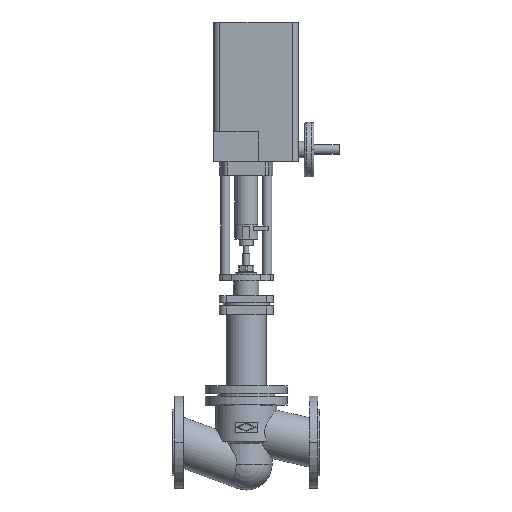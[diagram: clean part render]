
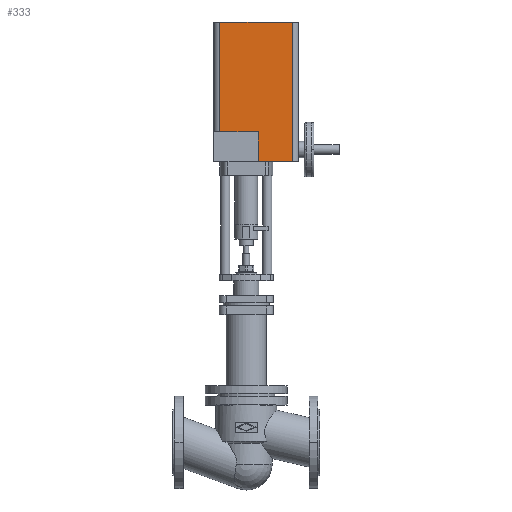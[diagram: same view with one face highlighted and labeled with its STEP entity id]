
A CAD part, top view. The second image highlights one B-rep face of the part: STEP entity #333.
In plain terms, the highlighted planar face has unit normal (0, 0, 1).
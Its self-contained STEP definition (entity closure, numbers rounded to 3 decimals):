
#333 = ADVANCED_FACE( '', ( #825 ), #826, .T. );
#825 = FACE_OUTER_BOUND( '', #1326, .T. );
#826 = PLANE( '', #1327 );
#1326 = EDGE_LOOP( '', ( #3011, #3012, #3013, #3014, #3015, #3016 ) );
#1327 = AXIS2_PLACEMENT_3D( '', #3017, #3018, #3019 );
#3011 = ORIENTED_EDGE( '', *, *, #3603, .T. );
#3012 = ORIENTED_EDGE( '', *, *, #3608, .T. );
#3013 = ORIENTED_EDGE( '', *, *, #3616, .T. );
#3014 = ORIENTED_EDGE( '', *, *, #3617, .T. );
#3015 = ORIENTED_EDGE( '', *, *, #3618, .T. );
#3016 = ORIENTED_EDGE( '', *, *, #3614, .F. );
#3017 = CARTESIAN_POINT( '', ( 285.5, 670.2, 102.5 ) );
#3018 = DIRECTION( '', ( 0., 0., 1. ) );
#3019 = DIRECTION( '', ( 1., 0., 0. ) );
#3603 = EDGE_CURVE( '', #4494, #4492, #4495, .T. );
#3608 = EDGE_CURVE( '', #4492, #4502, #4503, .T. );
#3614 = EDGE_CURVE( '', #4494, #4512, #4513, .T. );
#3616 = EDGE_CURVE( '', #4502, #4515, #4516, .T. );
#3617 = EDGE_CURVE( '', #4515, #4517, #4518, .T. );
#3618 = EDGE_CURVE( '', #4517, #4512, #4519, .T. );
#4492 = VERTEX_POINT( '', #6192 );
#4494 = VERTEX_POINT( '', #6195 );
#4495 = LINE( '', #6196, #6197 );
#4502 = VERTEX_POINT( '', #6207 );
#4503 = LINE( '', #6208, #6209 );
#4512 = VERTEX_POINT( '', #6223 );
#4513 = LINE( '', #6224, #6225 );
#4515 = VERTEX_POINT( '', #6227 );
#4516 = LINE( '', #6228, #6229 );
#4517 = VERTEX_POINT( '', #6230 );
#4518 = LINE( '', #6231, #6232 );
#4519 = LINE( '', #6233, #6234 );
#6192 = CARTESIAN_POINT( '', ( 204., 741.7, 102.5 ) );
#6195 = CARTESIAN_POINT( '', ( 111.5, 741.7, 102.5 ) );
#6196 = CARTESIAN_POINT( '', ( 230.25, 741.7, 102.5 ) );
#6197 = VECTOR( '', #7272, 1. );
#6207 = CARTESIAN_POINT( '', ( 204., 670.2, 102.5 ) );
#6208 = CARTESIAN_POINT( '', ( 204., 670.2, 102.5 ) );
#6209 = VECTOR( '', #7279, 1. );
#6223 = CARTESIAN_POINT( '', ( 111.5, 1003.7, 102.5 ) );
#6224 = CARTESIAN_POINT( '', ( 111.5, 670.2, 102.5 ) );
#6225 = VECTOR( '', #7285, 1. );
#6227 = CARTESIAN_POINT( '', ( 285.5, 670.2, 102.5 ) );
#6228 = CARTESIAN_POINT( '', ( 111.5, 670.2, 102.5 ) );
#6229 = VECTOR( '', #7289, 1. );
#6230 = CARTESIAN_POINT( '', ( 285.5, 1003.7, 102.5 ) );
#6231 = CARTESIAN_POINT( '', ( 285.5, 670.2, 102.5 ) );
#6232 = VECTOR( '', #7290, 1. );
#6233 = CARTESIAN_POINT( '', ( 111.5, 1003.7, 102.5 ) );
#6234 = VECTOR( '', #7291, 1. );
#7272 = DIRECTION( '', ( 1., 0., 0. ) );
#7279 = DIRECTION( '', ( 0., -1., 0. ) );
#7285 = DIRECTION( '', ( 0., 1., 0. ) );
#7289 = DIRECTION( '', ( 1., 0., 0. ) );
#7290 = DIRECTION( '', ( 0., 1., 0. ) );
#7291 = DIRECTION( '', ( -1., 0., 0. ) );
